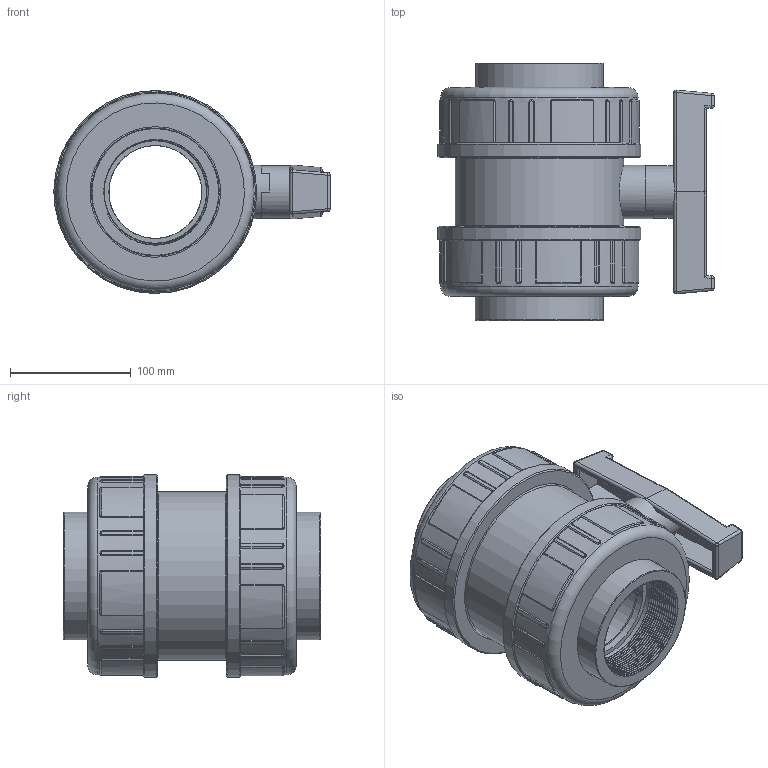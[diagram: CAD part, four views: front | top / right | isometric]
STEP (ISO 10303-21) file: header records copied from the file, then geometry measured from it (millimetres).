
FILE_DESCRIPTION(/* description */ (''),/* implementation_level */ '2;1');
FILE_NAME(/* name */ 'C:\Users\POLYPIPE\Desktop\DATASET INVENTOR\LIBRERIA EFFAST\3D_VALVOLE\3D_VALVOLE A SFERA\3D_BV\3D_BERBVE\3D_BERBVE090I.stp',/* time_stamp */ '2018-01-24T10:10:22+01:00',/* author */ ('POLYPIPE'),/* organization */ (''),/* preprocessor_version */ 'ST-DEVELOPER v16.1',/* originating_system */ 'Autodesk Inventor 2016',/* authorisation */ '');
FILE_SCHEMA (('CONFIG_CONTROL_DESIGN'));
Length unit declared in the file: centimetre
Products named in the file (1): 3D_BERBVE090I
Bounding box: 228.75 x 213 x 168 mm (x, y, z)
Volume: 2635364 mm3; surface area: 383961.1 mm2
Topology: 3 solids, 4 shells, 490 faces, 1228 edges, 761 vertices
Faces by surface type: cylinder 164, bspline 158, plane 134, torus 18, sphere 12, cone 4
Full cylindrical faces by diameter (mm): 29.8 x1, 43.5 x1, 44.1 x1, 76.8 x1, 77 x2, 84.926 x2, 106 x2, 108.2 x2, 133 x2, 137 x2, 139.5 x1, 142.5 x2, 163.5 x2, 168 x2
Entity records: 68904 total; most frequent: CARTESIAN_POINT 57487, ORIENTED_EDGE 2378, DIRECTION 2038, EDGE_CURVE 1189, AXIS2_PLACEMENT_3D 772, VERTEX_POINT 753, EDGE_LOOP 542, LINE 494
